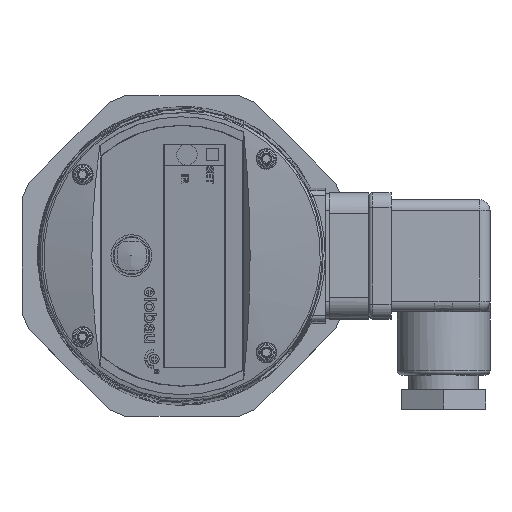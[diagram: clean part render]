
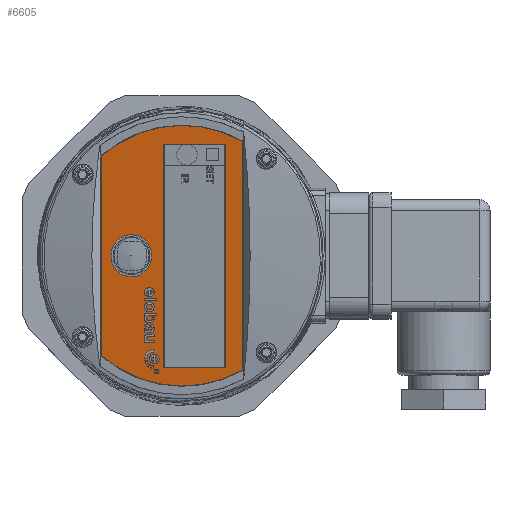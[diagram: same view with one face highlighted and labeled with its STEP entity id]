
A CAD part, top view. The second image highlights one B-rep face of the part: STEP entity #6605.
In plain terms, the highlighted planar face has unit normal (-0.259, 0, 0.966).
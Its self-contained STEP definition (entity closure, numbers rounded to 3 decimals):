
#1327=PLANE('',#25632);
#3888=LINE('',#73542,#5143);
#3889=LINE('',#73547,#5144);
#3890=LINE('',#73550,#5145);
#3891=LINE('',#73553,#5146);
#3892=LINE('',#73555,#5147);
#3893=LINE('',#73557,#5148);
#5143=VECTOR('',#30845,1.);
#5144=VECTOR('',#30848,1.);
#5145=VECTOR('',#30851,1.);
#5146=VECTOR('',#30852,1.);
#5147=VECTOR('',#30853,1.);
#5148=VECTOR('',#30854,1.);
#6605=ADVANCED_FACE('',(#8468,#8469,#8470),#1327,.F.);
#8468=FACE_BOUND('',#10010,.T.);
#8469=FACE_BOUND('',#10011,.T.);
#8470=FACE_BOUND('',#10012,.T.);
#10010=EDGE_LOOP('',(#16514));
#10011=EDGE_LOOP('',(#16515,#16516,#16517,#16518));
#10012=EDGE_LOOP('',(#16519,#16520,#16521,#16522));
#16514=ORIENTED_EDGE('',*,*,#22461,.T.);
#16515=ORIENTED_EDGE('',*,*,#22462,.T.);
#16516=ORIENTED_EDGE('',*,*,#22463,.T.);
#16517=ORIENTED_EDGE('',*,*,#22464,.T.);
#16518=ORIENTED_EDGE('',*,*,#22465,.T.);
#16519=ORIENTED_EDGE('',*,*,#22466,.T.);
#16520=ORIENTED_EDGE('',*,*,#22467,.T.);
#16521=ORIENTED_EDGE('',*,*,#22468,.T.);
#16522=ORIENTED_EDGE('',*,*,#22469,.T.);
#19104=VERTEX_POINT('',#73541);
#19105=VERTEX_POINT('',#73543);
#19106=VERTEX_POINT('',#73544);
#19107=VERTEX_POINT('',#73546);
#19108=VERTEX_POINT('',#73548);
#19109=VERTEX_POINT('',#73551);
#19110=VERTEX_POINT('',#73552);
#19111=VERTEX_POINT('',#73554);
#19112=VERTEX_POINT('',#73556);
#22461=EDGE_CURVE('',#19104,#19104,#23613,.T.);
#22462=EDGE_CURVE('',#19105,#19106,#3888,.T.);
#22463=EDGE_CURVE('',#19106,#19107,#23614,.T.);
#22464=EDGE_CURVE('',#19107,#19108,#3889,.T.);
#22465=EDGE_CURVE('',#19108,#19105,#23615,.T.);
#22466=EDGE_CURVE('',#19109,#19110,#3890,.T.);
#22467=EDGE_CURVE('',#19110,#19111,#3891,.T.);
#22468=EDGE_CURVE('',#19111,#19112,#3892,.T.);
#22469=EDGE_CURVE('',#19112,#19109,#3893,.T.);
#23613=CIRCLE('',#25629,5.);
#23614=CIRCLE('',#25630,30.95);
#23615=CIRCLE('',#25631,30.95);
#25629=AXIS2_PLACEMENT_3D('',#73540,#30843,#30844);
#25630=AXIS2_PLACEMENT_3D('',#73545,#30846,#30847);
#25631=AXIS2_PLACEMENT_3D('',#73549,#30849,#30850);
#25632=AXIS2_PLACEMENT_3D('',#73558,#30855,#30856);
#30843=DIRECTION('',(0.259,0.,-0.966));
#30844=DIRECTION('',(0.966,0.,0.259));
#30845=DIRECTION('',(0.,1.,0.));
#30846=DIRECTION('',(-0.259,0.,0.966));
#30847=DIRECTION('',(0.,-1.,0.));
#30848=DIRECTION('',(0.,-1.,0.));
#30849=DIRECTION('',(-0.259,0.,0.966));
#30850=DIRECTION('',(0.,-1.,0.));
#30851=DIRECTION('',(0.,1.,0.));
#30852=DIRECTION('',(0.966,0.,0.259));
#30853=DIRECTION('',(0.,-1.,0.));
#30854=DIRECTION('',(-0.966,0.,-0.259));
#30855=DIRECTION('',(0.259,0.,-0.966));
#30856=DIRECTION('',(0.966,0.,0.259));
#73540=CARTESIAN_POINT('',(-12.048,0.,38.868));
#73541=CARTESIAN_POINT('',(-7.219,0.,40.162));
#73542=CARTESIAN_POINT('',(14.322,27.182,45.934));
#73543=CARTESIAN_POINT('',(14.322,-27.182,45.934));
#73544=CARTESIAN_POINT('',(14.322,27.182,45.934));
#73545=CARTESIAN_POINT('',(0.026,0.,42.103));
#73546=CARTESIAN_POINT('',(-19.196,23.704,36.953));
#73547=CARTESIAN_POINT('',(-19.196,-23.704,36.953));
#73548=CARTESIAN_POINT('',(-19.196,-23.704,36.953));
#73549=CARTESIAN_POINT('',(0.026,0.,42.103));
#73550=CARTESIAN_POINT('',(-4.321,0.,40.939));
#73551=CARTESIAN_POINT('',(-4.321,-26.5,40.939));
#73552=CARTESIAN_POINT('',(-4.321,26.5,40.939));
#73553=CARTESIAN_POINT('',(0.026,26.5,42.103));
#73554=CARTESIAN_POINT('',(10.168,26.5,44.821));
#73555=CARTESIAN_POINT('',(10.168,0.,44.821));
#73556=CARTESIAN_POINT('',(10.168,-26.5,44.821));
#73557=CARTESIAN_POINT('',(0.026,-26.5,42.103));
#73558=CARTESIAN_POINT('',(0.026,0.,42.103));
